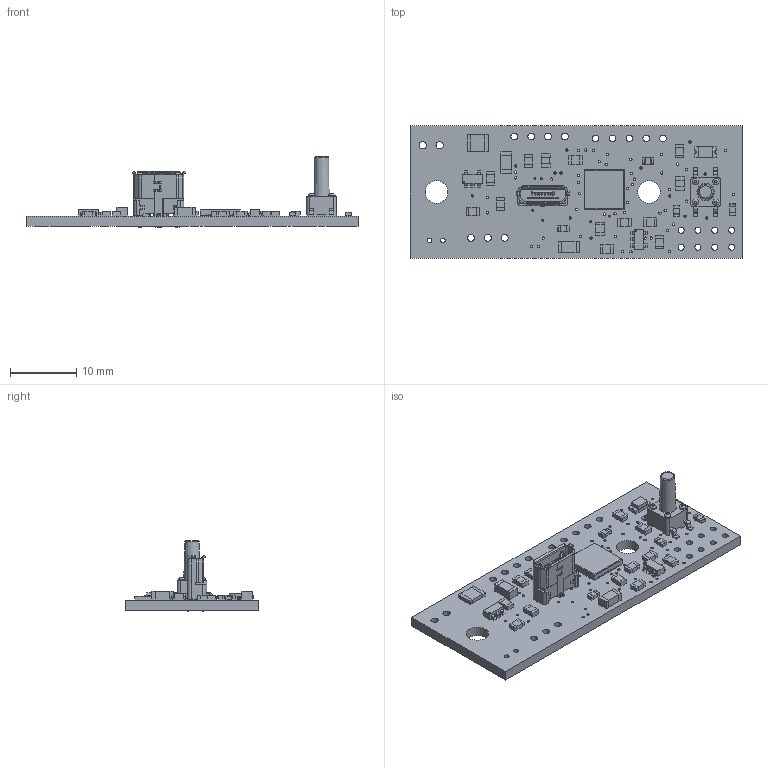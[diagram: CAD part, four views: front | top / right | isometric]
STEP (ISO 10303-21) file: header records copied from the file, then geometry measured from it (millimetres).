
FILE_DESCRIPTION(/* description */ (''),/* implementation_level */ '2;1');
FILE_NAME(/* name */ 'C:/Users/Owner/Desktop/pixel-quark-v1a-3d-1 v7.step',/* time_stamp */ '2020-02-29T09:45:13-06:00',/* author */ (''),/* organization */ (''),/* preprocessor_version */ 'ST-DEVELOPER v18',/* originating_system */ 'Autodesk Translation Framework v8.12.0.6',/* authorisation */ '');
FILE_SCHEMA (('AUTOMOTIVE_DESIGN { 1 0 10303 214 3 1 1 }'));
Length unit declared in the file: millimetre
Products named in the file (21): pixel-quark-v1a-3d-1; PCB Component; Board; 0.1uF; 100; PIC24FJXXGB002; 10k; blue; AP2210K; Fuse 2 amps; 47uF; SW-TACTILE-TL3305; MA04-1; 105133-0001; MOLEX-KK-2P5V; FE05-1; MA03-1; ESP8266-01NOLABEL; SJ; B2B-PH-K; SJ (1)
Assembly tree (36 placements, depth 3):
  pixel-quark-v1a-3d-1
    PCB Component
      Board
      0.1uF  x9
      100  x4
      PIC24FJXXGB002
      10k  x4
      blue
      AP2210K  x2
      Fuse 2 amps
      47uF  x2
      SW-TACTILE-TL3305
      MA04-1
      105133-0001
      MOLEX-KK-2P5V
      FE05-1
      MA03-1
      ESP8266-01NOLABEL
      SJ
      B2B-PH-K
      SJ (1)
Bounding box: 50 x 20 x 10.57 mm (x, y, z)
Volume: 1662.9 mm3; surface area: 3360.7 mm2
Topology: 40 solids, 452 shells, 1595 faces, 5411 edges, 4344 vertices
Faces by surface type: plane 1060, cylinder 448, sphere 67, torus 9, bspline 8, cone 3
Full cylindrical faces by diameter (mm): 0.3 x2, 0.305 x8, 0.35 x68, 0.65 x4, 0.7 x4, 0.711 x2, 0.85 x2, 0.914 x8, 0.95 x4, 1 x5, 1.016 x7, 1.04 x1, 1.1 x2, 1.25 x1, 2.6 x1, 3.4 x2
Entity records: 50914 total; most frequent: CARTESIAN_POINT 10051, DIRECTION 8029, ORIENTED_EDGE 6550, EDGE_CURVE 4486, VERTEX_POINT 3777, LINE 3341, VECTOR 3341, AXIS2_PLACEMENT_3D 2344
